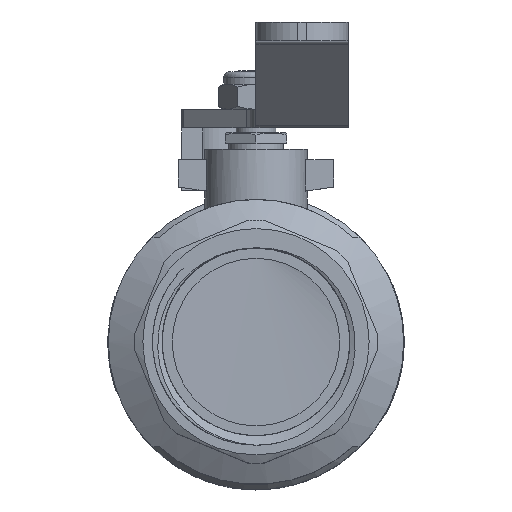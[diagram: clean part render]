
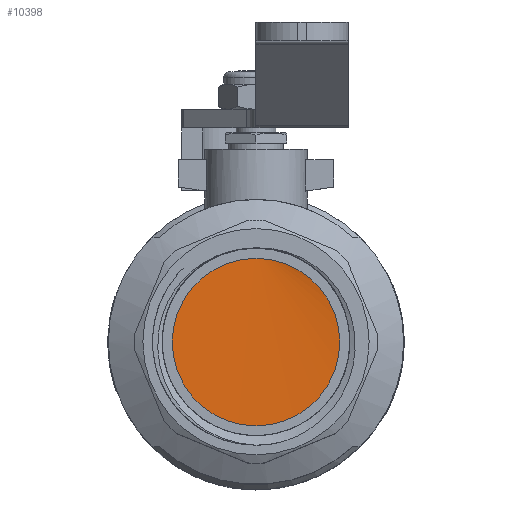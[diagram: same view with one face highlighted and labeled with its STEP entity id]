
A CAD part, top view. The second image highlights one B-rep face of the part: STEP entity #10398.
In plain terms, the highlighted cylindrical face has radius 22.737 mm (diameter 45.474 mm), a full revolution.
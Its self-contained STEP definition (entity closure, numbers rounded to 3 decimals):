
#1220=FACE_OUTER_BOUND('',#1818,.T.);
#1818=EDGE_LOOP('',(#7168,#7169,#7170));
#2500=B_SPLINE_CURVE_WITH_KNOTS('',3,(#15024,#15025,#15026,#15027,#15028,
#15029,#15030,#15031,#15032,#15033,#15034,#15035,#15036,#15037,#15038,#15039,
#15040),.UNSPECIFIED.,.F.,.F.,(4,1,1,1,1,1,1,1,1,1,1,1,1,1,4),(56.549,
56.829,57.328,57.827,58.325,58.824,
59.322,59.821,60.319,60.818,61.316,
61.815,62.313,62.812,62.832),
 .UNSPECIFIED.);
#2950=LINE('',#13945,#3688);
#2980=LINE('',#15023,#3718);
#3688=VECTOR('',#11706,22.737);
#3718=VECTOR('',#11796,22.737);
#4429=VERTEX_POINT('',#13943);
#4430=VERTEX_POINT('',#13944);
#4486=VERTEX_POINT('',#15022);
#5481=EDGE_CURVE('',#4429,#4430,#2950,.T.);
#5560=EDGE_CURVE('',#4486,#4430,#2980,.T.);
#5561=EDGE_CURVE('',#4486,#4429,#2500,.T.);
#7168=ORIENTED_EDGE('',*,*,#5481,.T.);
#7169=ORIENTED_EDGE('',*,*,#5560,.F.);
#7170=ORIENTED_EDGE('',*,*,#5561,.T.);
#10256=CYLINDRICAL_SURFACE('',#11021,22.737);
#10398=ADVANCED_FACE('',(#1220),#10256,.T.);
#11021=AXIS2_PLACEMENT_3D('',#15021,#11794,#11795);
#11706=DIRECTION('',(0.,0.,-1.));
#11794=DIRECTION('center_axis',(0.,0.,-1.));
#11795=DIRECTION('ref_axis',(0.,-1.,0.));
#11796=DIRECTION('',(0.,0.,1.));
#13943=CARTESIAN_POINT('',(0.,22.737,-40.639));
#13944=CARTESIAN_POINT('',(0.,22.737,-42.839));
#13945=CARTESIAN_POINT('',(0.,22.737,-49.945));
#15021=CARTESIAN_POINT('Origin',(0.,0.,-49.945));
#15022=CARTESIAN_POINT('',(0.,22.737,-42.939));
#15023=CARTESIAN_POINT('',(0.,22.737,-49.945));
#15024=CARTESIAN_POINT('Ctrl Pts',(0.,22.735,
-42.939));
#15025=CARTESIAN_POINT('Ctrl Pts',(-2.128,22.734,-42.905));
#15026=CARTESIAN_POINT('Ctrl Pts',(-8.037,21.912,-42.81));
#15027=CARTESIAN_POINT('Ctrl Pts',(-16.657,16.86,-42.654));
#15028=CARTESIAN_POINT('Ctrl Pts',(-22.691,6.844,-42.472));
#15029=CARTESIAN_POINT('Ctrl Pts',(-23.201,-4.838,
-42.289));
#15030=CARTESIAN_POINT('Ctrl Pts',(-18.064,-15.342,
-42.107));
#15031=CARTESIAN_POINT('Ctrl Pts',(-8.53,-22.112,
-41.924));
#15032=CARTESIAN_POINT('Ctrl Pts',(3.08,-23.499,-41.742));
#15033=CARTESIAN_POINT('Ctrl Pts',(13.941,-19.166,-41.559));
#15034=CARTESIAN_POINT('Ctrl Pts',(21.409,-10.168,-41.377));
#15035=CARTESIAN_POINT('Ctrl Pts',(23.665,1.306,-41.194));
#15036=CARTESIAN_POINT('Ctrl Pts',(20.16,12.461,-41.012));
#15037=CARTESIAN_POINT('Ctrl Pts',(11.748,20.584,-40.829));
#15038=CARTESIAN_POINT('Ctrl Pts',(4.082,22.7,-40.705));
#15039=CARTESIAN_POINT('Ctrl Pts',(0.153,22.739,-40.642));
#15040=CARTESIAN_POINT('Ctrl Pts',(0.,22.739,
-40.639));
